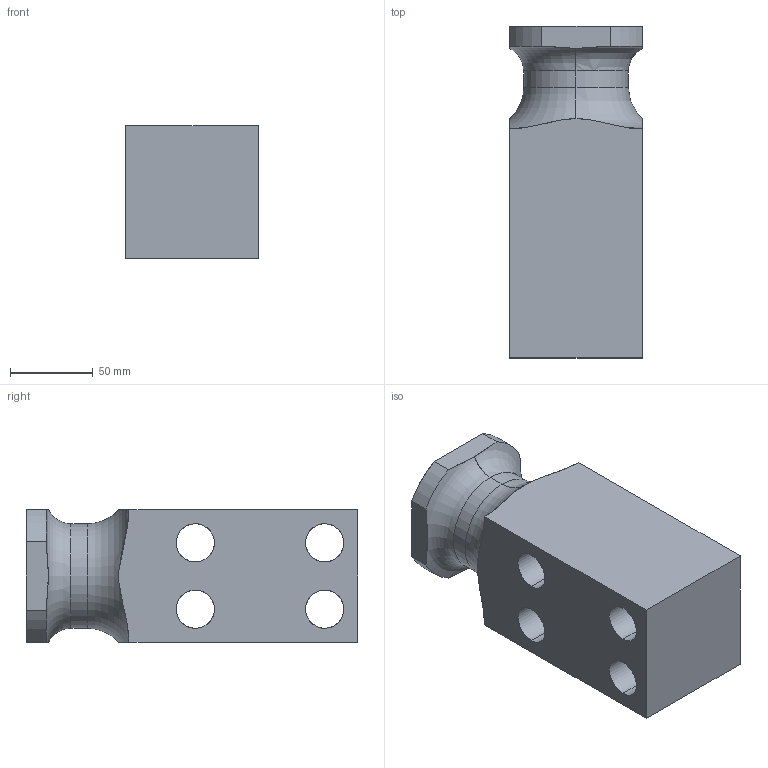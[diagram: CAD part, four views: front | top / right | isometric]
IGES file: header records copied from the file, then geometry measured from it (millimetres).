
Start section: START RECORD GO HERE.
Global section: file name: 395V-04-080-200.igs; native system: DASSAULT SYSTEMES CATIA V5 R20 - www.3ds.com; preprocessor: CATIA Version 5 Release 20 ; author: Utente; organization: NB04-ASUS; date: 20200410.131423; units: millimetre
Bounding box: 80 x 200 x 80 mm (x, y, z)
Surface area: 95927.1 mm2 (no closed solid volume)
Topology: 0 solids, 0 shells, 44 faces, 224 edges, 224 vertices
Faces by surface type: revolution 26, extrusion 18
